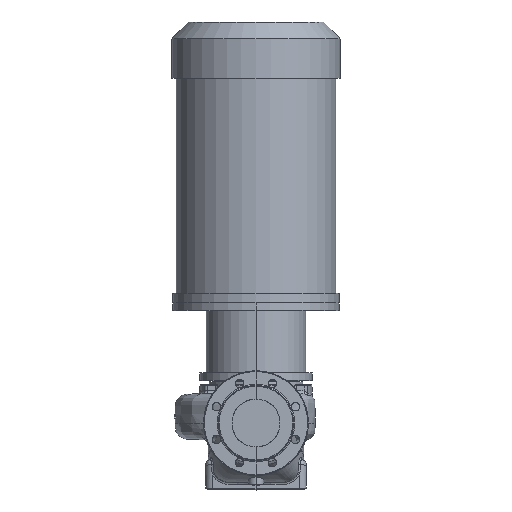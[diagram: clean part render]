
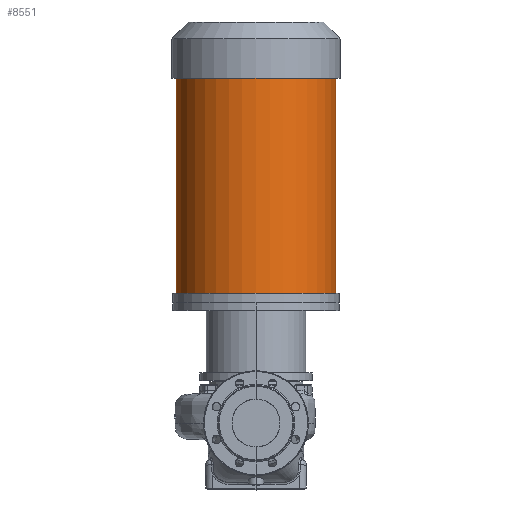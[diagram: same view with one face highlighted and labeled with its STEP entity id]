
A CAD part, top view. The second image highlights one B-rep face of the part: STEP entity #8551.
In plain terms, the highlighted cylindrical face has radius 167.5 mm (diameter 335 mm), a partial arc.
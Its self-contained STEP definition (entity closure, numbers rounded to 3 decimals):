
#110 = VECTOR ( 'NONE', #52848, 1000. ) ;
#2104 = CARTESIAN_POINT ( 'NONE',  ( 0., 272.8, 0. ) ) ;
#3279 = EDGE_CURVE ( 'NONE', #46750, #22386, #41879, .T. ) ;
#8247 = ORIENTED_EDGE ( 'NONE', *, *, #8881, .F. ) ;
#8551 = ADVANCED_FACE ( 'NONE', ( #55576 ), #18473, .T. ) ;
#8881 = EDGE_CURVE ( 'NONE', #22386, #24000, #29519, .T. ) ;
#8895 = DIRECTION ( 'NONE',  ( -1., 0., 0. ) ) ;
#9622 = EDGE_CURVE ( 'NONE', #14232, #24000, #15122, .T. ) ;
#10497 = DIRECTION ( 'NONE',  ( -1., 0., 0. ) ) ;
#10581 = CARTESIAN_POINT ( 'NONE',  ( -167.5, 724.8, 0. ) ) ;
#11247 = ORIENTED_EDGE ( 'NONE', *, *, #36273, .T. ) ;
#14037 = DIRECTION ( 'NONE',  ( 0., -1., 0. ) ) ;
#14232 = VERTEX_POINT ( 'NONE', #10581 ) ;
#15122 = LINE ( 'NONE', #17062, #110 ) ;
#16766 = ORIENTED_EDGE ( 'NONE', *, *, #9622, .T. ) ;
#17062 = CARTESIAN_POINT ( 'NONE',  ( -167.5, 252.8, 0. ) ) ;
#18473 = CYLINDRICAL_SURFACE ( 'NONE', #47535, 167.5 ) ;
#22386 = VERTEX_POINT ( 'NONE', #60458 ) ;
#22725 = DIRECTION ( 'NONE',  ( -1., 0., 0. ) ) ;
#24000 = VERTEX_POINT ( 'NONE', #40633 ) ;
#29519 = CIRCLE ( 'NONE', #64900, 167.5 ) ;
#29922 = DIRECTION ( 'NONE',  ( 0., -1., 0. ) ) ;
#32224 = CARTESIAN_POINT ( 'NONE',  ( 167.5, 724.8, 0. ) ) ;
#34906 = CARTESIAN_POINT ( 'NONE',  ( 167.5, 252.8, 0. ) ) ;
#36273 = EDGE_CURVE ( 'NONE', #46750, #14232, #53567, .T. ) ;
#38903 = CARTESIAN_POINT ( 'NONE',  ( 0., 252.8, 0. ) ) ;
#40610 = DIRECTION ( 'NONE',  ( 0., -1., 0. ) ) ;
#40633 = CARTESIAN_POINT ( 'NONE',  ( -167.5, 272.8, 0. ) ) ;
#41879 = LINE ( 'NONE', #34906, #43441 ) ;
#43441 = VECTOR ( 'NONE', #40610, 1000. ) ;
#46750 = VERTEX_POINT ( 'NONE', #32224 ) ;
#47535 = AXIS2_PLACEMENT_3D ( 'NONE', #38903, #14037, #10497 ) ;
#49176 = EDGE_LOOP ( 'NONE', ( #60991, #11247, #16766, #8247 ) ) ;
#52848 = DIRECTION ( 'NONE',  ( 0., -1., 0. ) ) ;
#53567 = CIRCLE ( 'NONE', #57905, 167.5 ) ;
#55245 = CARTESIAN_POINT ( 'NONE',  ( 0., 724.8, 0. ) ) ;
#55576 = FACE_OUTER_BOUND ( 'NONE', #49176, .T. ) ;
#57793 = DIRECTION ( 'NONE',  ( 0., -1., 0. ) ) ;
#57905 = AXIS2_PLACEMENT_3D ( 'NONE', #55245, #29922, #8895 ) ;
#60458 = CARTESIAN_POINT ( 'NONE',  ( 167.5, 272.8, 0. ) ) ;
#60991 = ORIENTED_EDGE ( 'NONE', *, *, #3279, .F. ) ;
#64900 = AXIS2_PLACEMENT_3D ( 'NONE', #2104, #57793, #22725 ) ;
